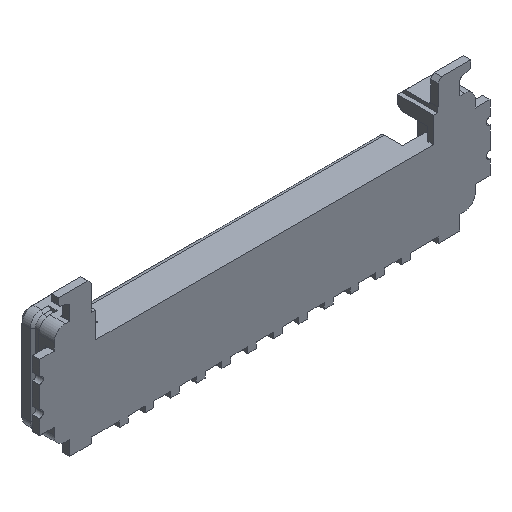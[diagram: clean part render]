
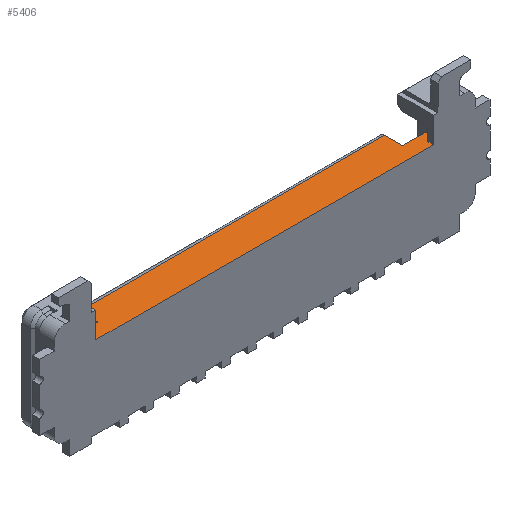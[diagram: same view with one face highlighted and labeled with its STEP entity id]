
A CAD part, isometric view. The second image highlights one B-rep face of the part: STEP entity #5406.
In plain terms, the highlighted planar face has unit normal (0, 0, 1).
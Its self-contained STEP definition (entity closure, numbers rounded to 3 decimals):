
#207 = ORIENTED_EDGE ( 'NONE', *, *, #3952, .F. ) ;
#236 = ORIENTED_EDGE ( 'NONE', *, *, #2947, .F. ) ;
#404 = VECTOR ( 'NONE', #1433, 1000. ) ;
#462 = VERTEX_POINT ( 'NONE', #2838 ) ;
#523 = LINE ( 'NONE', #4445, #1855 ) ;
#555 = ORIENTED_EDGE ( 'NONE', *, *, #1069, .F. ) ;
#562 = CARTESIAN_POINT ( 'NONE',  ( 2.7, 0.2, 0.3 ) ) ;
#583 = AXIS2_PLACEMENT_3D ( 'NONE', #6955, #4776, #1424 ) ;
#731 = ORIENTED_EDGE ( 'NONE', *, *, #1040, .T. ) ;
#774 = CARTESIAN_POINT ( 'NONE',  ( 2.48, 0., 0.3 ) ) ;
#781 = CARTESIAN_POINT ( 'NONE',  ( 2.7, 0.2, 0.3 ) ) ;
#841 = ORIENTED_EDGE ( 'NONE', *, *, #6430, .T. ) ;
#843 = CARTESIAN_POINT ( 'NONE',  ( 2.7, 0.08, 0.3 ) ) ;
#889 = LINE ( 'NONE', #4171, #1297 ) ;
#995 = CARTESIAN_POINT ( 'NONE',  ( -2.35, 0.08, 0.3 ) ) ;
#1006 = CARTESIAN_POINT ( 'NONE',  ( 2.26, 0.2, 0.3 ) ) ;
#1040 = EDGE_CURVE ( 'NONE', #2900, #4430, #4277, .T. ) ;
#1052 = ORIENTED_EDGE ( 'NONE', *, *, #6203, .T. ) ;
#1069 = EDGE_CURVE ( 'NONE', #1658, #4123, #889, .T. ) ;
#1104 = VERTEX_POINT ( 'NONE', #995 ) ;
#1131 = DIRECTION ( 'NONE',  ( 1., 0., 0. ) ) ;
#1281 = ORIENTED_EDGE ( 'NONE', *, *, #3411, .F. ) ;
#1297 = VECTOR ( 'NONE', #2000, 1000. ) ;
#1350 = LINE ( 'NONE', #774, #2995 ) ;
#1364 = EDGE_CURVE ( 'NONE', #3412, #5476, #1350, .T. ) ;
#1386 = PLANE ( 'NONE',  #583 ) ;
#1400 = VECTOR ( 'NONE', #5355, 1000. ) ;
#1424 = DIRECTION ( 'NONE',  ( 1., 0., 0. ) ) ;
#1433 = DIRECTION ( 'NONE',  ( 0., 1., 0. ) ) ;
#1448 = CARTESIAN_POINT ( 'NONE',  ( -1.91, 0.08, 0.3 ) ) ;
#1468 = EDGE_LOOP ( 'NONE', ( #1281, #5726, #207, #6410, #3712, #731, #3128, #4564, #555, #841, #1052, #236 ) ) ;
#1553 = CARTESIAN_POINT ( 'NONE',  ( 2.26, 0.45, 0.3 ) ) ;
#1658 = VERTEX_POINT ( 'NONE', #2269 ) ;
#1725 = CARTESIAN_POINT ( 'NONE',  ( 2.48, 0.08, 0.3 ) ) ;
#1855 = VECTOR ( 'NONE', #1131, 1000. ) ;
#1911 = LINE ( 'NONE', #843, #2428 ) ;
#1952 = LINE ( 'NONE', #1448, #3585 ) ;
#2000 = DIRECTION ( 'NONE',  ( 1., 0., 0. ) ) ;
#2007 = VECTOR ( 'NONE', #5957, 1000. ) ;
#2048 = EDGE_CURVE ( 'NONE', #4123, #4185, #1952, .T. ) ;
#2087 = VECTOR ( 'NONE', #3037, 1000. ) ;
#2144 = EDGE_CURVE ( 'NONE', #3183, #6305, #1911, .T. ) ;
#2269 = CARTESIAN_POINT ( 'NONE',  ( -2.35, 0.2, 0.3 ) ) ;
#2313 = VECTOR ( 'NONE', #6705, 1000. ) ;
#2355 = CARTESIAN_POINT ( 'NONE',  ( -1.91, 0.45, 0.3 ) ) ;
#2428 = VECTOR ( 'NONE', #3033, 1000. ) ;
#2459 = CARTESIAN_POINT ( 'NONE',  ( 2.7, 0.08, 0.3 ) ) ;
#2755 = CARTESIAN_POINT ( 'NONE',  ( -2.13, 0.08, 0.3 ) ) ;
#2838 = CARTESIAN_POINT ( 'NONE',  ( -2.13, 0., 0.3 ) ) ;
#2858 = CARTESIAN_POINT ( 'NONE',  ( -1.91, 0.2, 0.3 ) ) ;
#2900 = VERTEX_POINT ( 'NONE', #1006 ) ;
#2947 = EDGE_CURVE ( 'NONE', #462, #4672, #6325, .T. ) ;
#2995 = VECTOR ( 'NONE', #5667, 1000. ) ;
#3033 = DIRECTION ( 'NONE',  ( 0., -1., 0. ) ) ;
#3037 = DIRECTION ( 'NONE',  ( 0., -1., 0. ) ) ;
#3128 = ORIENTED_EDGE ( 'NONE', *, *, #3752, .T. ) ;
#3183 = VERTEX_POINT ( 'NONE', #781 ) ;
#3411 = EDGE_CURVE ( 'NONE', #3412, #462, #3770, .T. ) ;
#3412 = VERTEX_POINT ( 'NONE', #6435 ) ;
#3585 = VECTOR ( 'NONE', #5197, 1000. ) ;
#3628 = CARTESIAN_POINT ( 'NONE',  ( -2.13, 0., 0.3 ) ) ;
#3712 = ORIENTED_EDGE ( 'NONE', *, *, #5752, .T. ) ;
#3752 = EDGE_CURVE ( 'NONE', #4430, #4185, #5923, .T. ) ;
#3770 = LINE ( 'NONE', #6531, #2007 ) ;
#3952 = EDGE_CURVE ( 'NONE', #6305, #5476, #6422, .T. ) ;
#4123 = VERTEX_POINT ( 'NONE', #2858 ) ;
#4144 = CARTESIAN_POINT ( 'NONE',  ( 4.35, 0.45, 0.3 ) ) ;
#4151 = CARTESIAN_POINT ( 'NONE',  ( -2.35, 0.08, 0.3 ) ) ;
#4171 = CARTESIAN_POINT ( 'NONE',  ( -2.35, 0.2, 0.3 ) ) ;
#4185 = VERTEX_POINT ( 'NONE', #2355 ) ;
#4277 = LINE ( 'NONE', #5816, #1400 ) ;
#4430 = VERTEX_POINT ( 'NONE', #1553 ) ;
#4445 = CARTESIAN_POINT ( 'NONE',  ( -2.35, 0.08, 0.3 ) ) ;
#4564 = ORIENTED_EDGE ( 'NONE', *, *, #2048, .F. ) ;
#4672 = VERTEX_POINT ( 'NONE', #2755 ) ;
#4745 = CARTESIAN_POINT ( 'NONE',  ( 2.7, 0.08, 0.3 ) ) ;
#4776 = DIRECTION ( 'NONE',  ( 0., 0., 1. ) ) ;
#4803 = VECTOR ( 'NONE', #5879, 1000. ) ;
#5197 = DIRECTION ( 'NONE',  ( 0., 1., 0. ) ) ;
#5263 = VECTOR ( 'NONE', #6342, 1000. ) ;
#5355 = DIRECTION ( 'NONE',  ( 0., 1., 0. ) ) ;
#5406 = ADVANCED_FACE ( 'NONE', ( #6311 ), #1386, .T. ) ;
#5476 = VERTEX_POINT ( 'NONE', #1725 ) ;
#5667 = DIRECTION ( 'NONE',  ( 0., 1., 0. ) ) ;
#5726 = ORIENTED_EDGE ( 'NONE', *, *, #1364, .T. ) ;
#5752 = EDGE_CURVE ( 'NONE', #3183, #2900, #6096, .T. ) ;
#5816 = CARTESIAN_POINT ( 'NONE',  ( 2.26, 0.08, 0.3 ) ) ;
#5879 = DIRECTION ( 'NONE',  ( -1., 0., 0. ) ) ;
#5923 = LINE ( 'NONE', #4144, #5263 ) ;
#5957 = DIRECTION ( 'NONE',  ( -1., 0., 0. ) ) ;
#6096 = LINE ( 'NONE', #562, #2313 ) ;
#6203 = EDGE_CURVE ( 'NONE', #1104, #4672, #523, .T. ) ;
#6305 = VERTEX_POINT ( 'NONE', #2459 ) ;
#6311 = FACE_OUTER_BOUND ( 'NONE', #1468, .T. ) ;
#6325 = LINE ( 'NONE', #3628, #404 ) ;
#6342 = DIRECTION ( 'NONE',  ( -1., 0., 0. ) ) ;
#6410 = ORIENTED_EDGE ( 'NONE', *, *, #2144, .F. ) ;
#6416 = LINE ( 'NONE', #4151, #2087 ) ;
#6422 = LINE ( 'NONE', #4745, #4803 ) ;
#6430 = EDGE_CURVE ( 'NONE', #1658, #1104, #6416, .T. ) ;
#6435 = CARTESIAN_POINT ( 'NONE',  ( 2.48, 0., 0.3 ) ) ;
#6531 = CARTESIAN_POINT ( 'NONE',  ( 1.575, 0., 0.3 ) ) ;
#6705 = DIRECTION ( 'NONE',  ( -1., 0., 0. ) ) ;
#6955 = CARTESIAN_POINT ( 'NONE',  ( 3.31, 0.2, 0.3 ) ) ;
